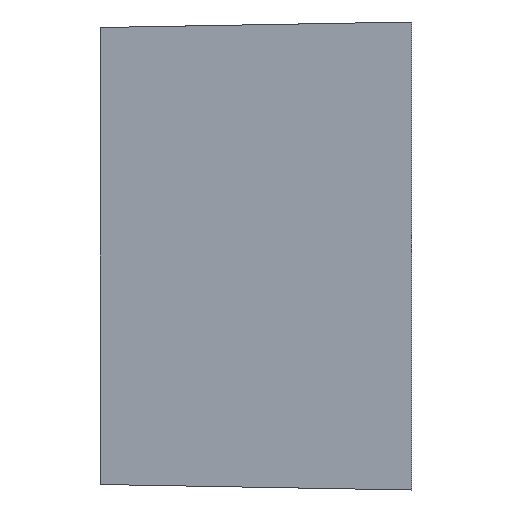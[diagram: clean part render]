
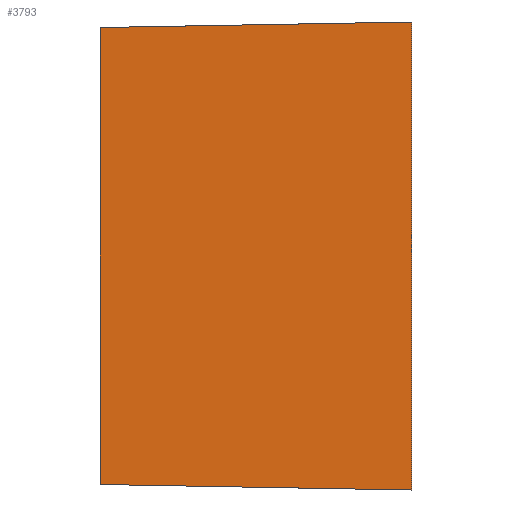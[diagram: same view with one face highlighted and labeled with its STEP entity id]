
A CAD part, left-side view. The second image highlights one B-rep face of the part: STEP entity #3793.
In plain terms, the highlighted free-form (B-spline) face has degree [3, 3] with [4, 4] control points.
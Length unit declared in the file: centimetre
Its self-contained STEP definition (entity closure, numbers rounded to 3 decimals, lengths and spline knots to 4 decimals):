
#841=B_SPLINE_SURFACE_WITH_KNOTS('',3,3,((#8082,#8083,#8084,#8085),(#8086,
#8087,#8088,#8089),(#8090,#8091,#8092,#8093),(#8094,#8095,#8096,#8097)),
.UNSPECIFIED.,.F.,.F.,.U.,(4,4),(4,4),(0.,1.),(0.,1.),.UNSPECIFIED.);
#875=B_SPLINE_CURVE_WITH_KNOTS('',3,(#8078,#8079,#8080,#8081),.UNSPECIFIED.,
.F.,.U.,(4,4),(0.,1.),.UNSPECIFIED.);
#876=B_SPLINE_CURVE_WITH_KNOTS('',3,(#8098,#8099,#8100,#8101),.UNSPECIFIED.,
.F.,.U.,(4,4),(0.,1.),.UNSPECIFIED.);
#1419=VERTEX_POINT('',#8017);
#1420=VERTEX_POINT('',#8019);
#1423=VERTEX_POINT('',#8026);
#1424=VERTEX_POINT('',#8028);
#2035=EDGE_CURVE('',#1419,#1420,#4894,.T.);
#2039=EDGE_CURVE('',#1424,#1423,#4898,.T.);
#2047=EDGE_CURVE('',#1424,#1419,#875,.T.);
#2048=EDGE_CURVE('',#1423,#1420,#876,.T.);
#3217=ORIENTED_EDGE('',*,*,#2039,.T.);
#3218=ORIENTED_EDGE('',*,*,#2048,.T.);
#3219=ORIENTED_EDGE('',*,*,#2035,.F.);
#3220=ORIENTED_EDGE('',*,*,#2047,.F.);
#3460=EDGE_LOOP('',(#3217,#3218,#3219,#3220));
#3632=FACE_BOUND('',#3460,.T.);
#3793=ADVANCED_FACE('',(#3632),#841,.T.);
#4894=LINE('',#8018,#5648);
#4898=LINE('',#8027,#5652);
#5648=VECTOR('',#8799,1.);
#5652=VECTOR('',#8804,1.);
#8017=CARTESIAN_POINT('',(-12.3,11.3,-8.3));
#8018=CARTESIAN_POINT('',(-12.3,11.3,-8.3));
#8019=CARTESIAN_POINT('',(-12.3,11.3,8.3));
#8026=CARTESIAN_POINT('',(-12.5,0.,8.5));
#8027=CARTESIAN_POINT('',(-12.5,0.,-8.5));
#8028=CARTESIAN_POINT('',(-12.5,0.,-8.5));
#8078=CARTESIAN_POINT('',(-12.5,0.,-8.5));
#8079=CARTESIAN_POINT('',(-12.4333,3.7667,-8.4333));
#8080=CARTESIAN_POINT('',(-12.3667,7.5333,-8.3667));
#8081=CARTESIAN_POINT('',(-12.3,11.3,-8.3));
#8082=CARTESIAN_POINT('',(-12.5,0.,-8.5));
#8083=CARTESIAN_POINT('',(-12.4333,3.7667,-8.4333));
#8084=CARTESIAN_POINT('',(-12.3667,7.5333,-8.3667));
#8085=CARTESIAN_POINT('',(-12.3,11.3,-8.3));
#8086=CARTESIAN_POINT('',(-12.5,0.,-2.8333));
#8087=CARTESIAN_POINT('',(-12.4333,3.7667,-2.8111));
#8088=CARTESIAN_POINT('',(-12.3667,7.5333,-2.7889));
#8089=CARTESIAN_POINT('',(-12.3,11.3,-2.7667));
#8090=CARTESIAN_POINT('',(-12.5,0.,2.8333));
#8091=CARTESIAN_POINT('',(-12.4333,3.7667,2.8111));
#8092=CARTESIAN_POINT('',(-12.3667,7.5333,2.7889));
#8093=CARTESIAN_POINT('',(-12.3,11.3,2.7667));
#8094=CARTESIAN_POINT('',(-12.5,0.,8.5));
#8095=CARTESIAN_POINT('',(-12.4333,3.7667,8.4333));
#8096=CARTESIAN_POINT('',(-12.3667,7.5333,8.3667));
#8097=CARTESIAN_POINT('',(-12.3,11.3,8.3));
#8098=CARTESIAN_POINT('',(-12.5,0.,8.5));
#8099=CARTESIAN_POINT('',(-12.4333,3.7667,8.4333));
#8100=CARTESIAN_POINT('',(-12.3667,7.5333,8.3667));
#8101=CARTESIAN_POINT('',(-12.3,11.3,8.3));
#8799=DIRECTION('',(0.,0.,1.));
#8804=DIRECTION('',(0.,0.,1.));
